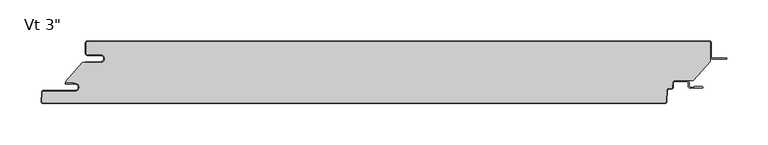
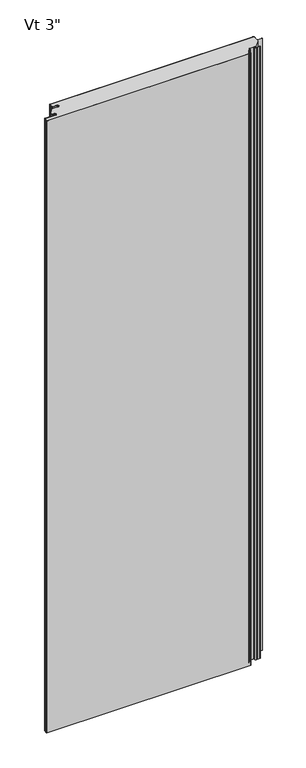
"""IFC4 building model written with IfcOpenShell, lengths in millimetres: plate geometry."""

from ifc_helpers import new_model, si_unit, point, frame, frame_2d, origin, origin_with_axes, place, context, project, spatial, polyline, circle_curve, ellipse_curve, trimmed, segment, composite_curve, outline, extrude, source, transform, mapped, element, save
from ifc_brep_helpers import plane_surface, cylinder_surface, revolved_surface, extruded_surface, advanced_brep


def plate_bbc6cc8b(model_context):
    return source(origin(), model_context, "Body", "SolidModel", [
        extrude(outline(composite_curve([segment(polyline([(-361.94375, -16.4625), (-377.81875, -16.4625)]), True, "CONTINUOUS"), segment(trimmed(circle_curve(frame_2d((-377.81875, -15.08125)), 1.38125), [point((-377.81875, -16.4625))], [point((-379.2, -15.08125))], False, "CARTESIAN"), True, "CONTINUOUS"), segment(polyline([(-379.2, -15.08125), (-379.2, -2.38125)]), True, "CONTINUOUS"), segment(trimmed(circle_curve(frame_2d((-377.81875, -2.38125)), 1.38125), [point((-379.2, -2.38125))], [point((-377.81875, -1.0))], False, "CARTESIAN"), True, "CONTINUOUS"), segment(polyline([(-377.81875, -1.0), (377.83125, -1.0)]), True, "CONTINUOUS"), segment(trimmed(circle_curve(frame_2d((377.83125, -2.38125)), 1.38125), [point((377.83125, -1.0))], [point((379.2125, -2.38125))], False, "CARTESIAN"), True, "CONTINUOUS"), segment(polyline([(379.2125, -2.38125), (379.2125, -24.9057308), (358.3955434, -48.2125), (335.9540783, -48.2125)]), True, "CONTINUOUS"), segment(trimmed(circle_curve(frame_2d((335.9540783, -50.8)), 2.5875), [point((335.9540783, -48.2125))], [point((333.3701244, -50.6645807))], True, "CARTESIAN"), True, "CONTINUOUS"), segment(polyline([(333.3701244, -50.6645807), (333.0680481, -56.428539)]), True, "CONTINUOUS"), segment(trimmed(circle_curve(frame_2d((331.6886911, -56.35625)), 1.38125), [point((333.0680481, -56.428539))], [point((331.6886911, -57.7375))], False, "CARTESIAN"), True, "CONTINUOUS"), segment(polyline([(331.6886911, -57.7375), (328.6448847, -57.7375)]), True, "CONTINUOUS"), segment(trimmed(circle_curve(frame_2d((328.6448847, -60.325)), 2.5875), [point((328.6448847, -57.7375))], [point((326.0609307, -60.1895807))], True, "CARTESIAN"), True, "CONTINUOUS"), segment(polyline([(326.0609307, -60.1895807), (325.3428677, -73.891039)]), True, "CONTINUOUS"), segment(trimmed(circle_curve(frame_2d((323.9635107, -73.81875)), 1.38125), [point((325.3428677, -73.891039))], [point((323.9635107, -75.2))], False, "CARTESIAN"), True, "CONTINUOUS"), segment(polyline([(323.9635107, -75.2), (-431.6799535, -75.2)]), True, "CONTINUOUS"), segment(trimmed(circle_curve(frame_2d((-431.6799535, -73.81875)), 1.38125), [point((-431.6799535, -75.2))], [point((-433.0593106, -73.746461))], False, "CARTESIAN"), True, "CONTINUOUS"), segment(polyline([(-433.0593106, -73.746461), (-432.4769291, -62.633961)]), True, "CONTINUOUS"), segment(trimmed(circle_curve(frame_2d((-431.0975721, -62.70625)), 1.38125), [point((-432.4769291, -62.633961))], [point((-431.0975721, -61.325))], False, "CARTESIAN"), True, "CONTINUOUS"), segment(polyline([(-431.0975721, -61.325), (-392.9142674, -61.325)]), True, "CONTINUOUS"), segment(trimmed(circle_curve(frame_2d((-392.9142674, -56.35625)), 4.96875), [point((-392.9142674, -61.325))], [point((-392.9142674, -51.3875))], True, "CARTESIAN"), True, "CONTINUOUS"), segment(polyline([(-392.9142674, -51.3875), (-394.5017674, -51.59375), (-394.5017674, -50.8), (-404.0125, -50.8), (-404.0125, -49.2157227), (-384.1260922, -26.4), (-361.94375, -26.4)]), True, "CONTINUOUS"), segment(trimmed(circle_curve(frame_2d((-361.94375, -21.43125)), 4.96875), [point((-361.94375, -26.4))], [point((-361.94375, -16.4625))], True, "CARTESIAN"), True, "CONTINUOUS")], self_intersect=False)), origin_with_axes(), (0.0, 0.0, 1.0), 2400.0),
        extrude(outline(composite_curve([segment(polyline([(-380.2, -25.4), (-361.94375, -25.4)]), True, "CONTINUOUS"), segment(trimmed(circle_curve(frame_2d((-361.94375, -21.43125)), 3.96875), [point((-361.94375, -25.4))], [point((-361.94375, -17.4625))], True, "CARTESIAN"), True, "CONTINUOUS"), segment(polyline([(-361.94375, -17.4625), (-377.81875, -17.4625)]), True, "CONTINUOUS"), segment(trimmed(circle_curve(frame_2d((-377.81875, -15.08125)), 2.38125), [point((-377.81875, -17.4625))], [point((-380.2, -15.08125))], False, "CARTESIAN"), True, "CONTINUOUS"), segment(polyline([(-380.2, -15.08125), (-380.2, -2.38125)]), True, "CONTINUOUS"), segment(trimmed(circle_curve(frame_2d((-377.81875, -2.38125)), 2.38125), [point((-380.2, -2.38125))], [point((-377.81875, 0.0))], False, "CARTESIAN"), True, "CONTINUOUS"), segment(polyline([(-377.81875, 0.0), (377.83125, 0.0)]), True, "CONTINUOUS"), segment(trimmed(circle_curve(frame_2d((377.83125, -2.38125)), 2.38125), [point((377.83125, 0.0))], [point((380.2125, -2.38125))], False, "CARTESIAN"), True, "CONTINUOUS"), segment(polyline([(380.2125, -2.38125), (380.2125, -19.446875)]), True, "CONTINUOUS"), segment(trimmed(circle_curve(frame_2d((381.8, -19.446875)), 1.5875), [point((380.2125, -19.446875))], [point((381.8, -21.034375))], True, "CARTESIAN"), True, "CONTINUOUS"), segment(polyline([(381.8, -21.034375), (399.2625, -21.034375), (399.2625, -22.034375), (381.8, -22.034375)]), True, "CONTINUOUS"), segment(trimmed(circle_curve(frame_2d((381.8, -19.446875)), 2.5875), [point((381.8, -22.034375))], [point((379.2125, -19.446875))], False, "CARTESIAN"), True, "CONTINUOUS"), segment(polyline([(379.2125, -19.446875), (379.2125, -2.38125)]), True, "CONTINUOUS"), segment(trimmed(circle_curve(frame_2d((377.83125, -2.38125)), 1.38125), [point((379.2125, -2.38125))], [point((377.83125, -1.0))], True, "CARTESIAN"), True, "CONTINUOUS"), segment(polyline([(377.83125, -1.0), (-377.81875, -1.0)]), True, "CONTINUOUS"), segment(trimmed(circle_curve(frame_2d((-377.81875, -2.38125)), 1.38125), [point((-377.81875, -1.0))], [point((-379.2, -2.38125))], True, "CARTESIAN"), True, "CONTINUOUS"), segment(polyline([(-379.2, -2.38125), (-379.2, -15.08125)]), True, "CONTINUOUS"), segment(trimmed(circle_curve(frame_2d((-377.81875, -15.08125)), 1.38125), [point((-379.2, -15.08125))], [point((-377.81875, -16.4625))], True, "CARTESIAN"), True, "CONTINUOUS"), segment(polyline([(-377.81875, -16.4625), (-361.94375, -16.4625)]), True, "CONTINUOUS"), segment(trimmed(circle_curve(frame_2d((-361.94375, -21.43125)), 4.96875), [point((-361.94375, -16.4625))], [point((-361.94375, -26.4))], False, "CARTESIAN"), True, "CONTINUOUS"), segment(polyline([(-361.94375, -26.4), (-380.2, -26.4), (-380.2, -25.4)]), True, "CONTINUOUS")], self_intersect=False)), origin_with_axes(), (0.0, 0.0, 1.0), 2400.0),
        advanced_brep(
        [(-404.2252049, -50.8, 2400.0), (-404.2252049, -52.3875, 2400.0), (-392.9142674, -52.3875, 2400.0), (-392.9142674, -60.325, 2400.0), (-431.0975721, -60.325, 2400.0), (-433.4755586, -62.581625, 2400.0), (-434.0579401, -73.694125, 2400.0), (-431.6799535, -76.2, 2400.0), (323.9635107, -76.2, 2400.0), (326.3414973, -73.943375, 2400.0), (327.0595603, -60.2419167, 2400.0), (328.6448847, -58.7375, 2400.0), (331.6886911, -58.7375, 2400.0), (334.0666776, -56.480875, 2400.0), (334.3687539, -50.7169167, 2400.0), (335.9540783, -49.2125, 2400.0), (350.8294826, -49.2125, 2400.0), (352.4169826, -50.8, 2400.0), (352.4169826, -54.9671875, 2400.0), (354.7982326, -57.3484375, 2400.0), (369.2898532, -57.3484375, 2400.0), (369.2898532, -55.5546875, 2400.0), (359.5607326, -55.5546875, 2400.0), (359.5607326, -56.3484375, 2400.0), (354.7982326, -56.3484375, 2400.0), (353.4169826, -54.9671875, 2400.0), (353.4169826, -50.8, 2400.0), (350.8294826, -48.2125, 2400.0), (335.9540783, -48.2125, 2400.0), (333.3701244, -50.6645807, 2400.0), (333.0680481, -56.428539, 2400.0), (331.6886911, -57.7375, 2400.0), (328.6448847, -57.7375, 2400.0), (326.0609307, -60.1895807, 2400.0), (325.3428677, -73.891039, 2400.0), (323.9635107, -75.2, 2400.0), (-431.6799535, -75.2, 2400.0), (-433.0593106, -73.746461, 2400.0), (-432.4769291, -62.633961, 2400.0), (-431.0975721, -61.325, 2400.0), (-392.9142674, -61.325, 2400.0), (-392.9142674, -51.3875, 2400.0), (-394.5017674, -51.59375, 2400.0), (-394.5017674, -50.8, 2400.0), (-404.2252049, -50.8, 0.0), (-394.5017674, -50.8, 0.0), (-394.5017674, -51.59375, 0.0), (-392.9142674, -51.3875, 0.0), (-392.9142674, -61.325, 0.0), (-431.0975721, -61.325, 0.0), (-432.4769291, -62.633961, 0.0), (-433.0593106, -73.746461, 0.0), (-431.6799535, -75.2, 0.0), (323.9635107, -75.2, 0.0), (325.3428677, -73.891039, 0.0), (326.0609307, -60.1895807, 0.0), (328.6448847, -57.7375, 0.0), (331.6886911, -57.7375, 0.0), (333.0680481, -56.428539, 0.0), (333.3701244, -50.6645807, 0.0), (335.9540783, -48.2125, 0.0), (350.8294826, -48.2125, 0.0), (353.4169826, -50.8, 0.0), (353.4169826, -54.9671875, 0.0), (354.7982326, -56.3484375, 0.0), (359.5607326, -56.3484375, 0.0), (359.5607326, -55.5546875, 0.0), (369.2898532, -55.5546875, 0.0), (369.2898532, -57.3484375, 0.0), (354.7982326, -57.3484375, 0.0), (352.4169826, -54.9671875, 0.0), (352.4169826, -50.8, 0.0), (350.8294826, -49.2125, 0.0), (335.9540783, -49.2125, 0.0), (334.3687539, -50.7169167, 0.0), (334.0666776, -56.480875, 0.0), (331.6886911, -58.7375, 0.0), (328.6448847, -58.7375, 0.0), (327.0595603, -60.2419167, 0.0), (326.3414973, -73.943375, 0.0), (323.9635107, -76.2, 0.0), (-431.6799535, -76.2, 0.0), (-434.0579401, -73.694125, 0.0), (-433.4755586, -62.581625, 0.0), (-431.0975721, -60.325, 0.0), (-392.9142674, -60.325, 0.0), (-392.9142674, -52.3875, 0.0), (-404.2252049, -52.3875, 0.0)],
        [
            (0, 1, circle_curve(frame((-404.2252049, -51.59375, 2400.0), z_axis=(0.0, 0.0, 1.0), x_axis=(1.0, 0.0, 0.0)), 0.79375)),
            (1, 2),
            (2, 3, circle_curve(frame((-392.9142674, -56.35625, 2400.0), z_axis=(0.0, 0.0, -1.0), x_axis=(1.0, 0.0, 0.0)), 3.96875)),
            (3, 4),
            (4, 5, circle_curve(frame((-431.0975721, -62.70625, 2400.0), z_axis=(0.0, 0.0, 1.0), x_axis=(1.0, 0.0, 0.0)), 2.38125)),
            (5, 6),
            (6, 7, circle_curve(frame((-431.6799535, -73.81875, 2400.0), z_axis=(0.0, 0.0, 1.0), x_axis=(1.0, 0.0, 0.0)), 2.38125)),
            (7, 8),
            (8, 9, circle_curve(frame((323.9635107, -73.81875, 2400.0), z_axis=(0.0, 0.0, 1.0), x_axis=(1.0, 0.0, 0.0)), 2.38125)),
            (9, 10),
            (10, 11, circle_curve(frame((328.6448847, -60.325, 2400.0), z_axis=(0.0, 0.0, -1.0), x_axis=(1.0, 0.0, 0.0)), 1.5875)),
            (11, 12),
            (12, 13, circle_curve(frame((331.6886911, -56.35625, 2400.0), z_axis=(0.0, 0.0, 1.0), x_axis=(1.0, 0.0, 0.0)), 2.38125)),
            (13, 14),
            (14, 15, circle_curve(frame((335.9540783, -50.8, 2400.0), z_axis=(0.0, 0.0, -1.0), x_axis=(1.0, 0.0, 0.0)), 1.5875)),
            (15, 16),
            (16, 17, circle_curve(frame((350.8294826, -50.8, 2400.0), z_axis=(0.0, 0.0, -1.0), x_axis=(1.0, 0.0, 0.0)), 1.5875)),
            (17, 18),
            (18, 19, circle_curve(frame((354.7982326, -54.9671875, 2400.0), z_axis=(0.0, 0.0, 1.0), x_axis=(1.0, 0.0, 0.0)), 2.38125)),
            (19, 20),
            (20, 21, ellipse_curve(frame((369.2898532, -56.4515625, 2400.0), z_axis=(0.0, 0.0, 1.0), x_axis=(0.0, 1.0, 0.0)), 0.896875, 0.7852275)),
            (21, 22),
            (22, 23),
            (23, 24),
            (24, 25, circle_curve(frame((354.7982326, -54.9671875, 2400.0), z_axis=(0.0, 0.0, -1.0), x_axis=(1.0, 0.0, 0.0)), 1.38125)),
            (25, 26),
            (26, 27, circle_curve(frame((350.8294826, -50.8, 2400.0), z_axis=(0.0, 0.0, 1.0), x_axis=(1.0, 0.0, 0.0)), 2.5875)),
            (27, 28),
            (28, 29, circle_curve(frame((335.9540783, -50.8, 2400.0), z_axis=(0.0, 0.0, 1.0), x_axis=(1.0, 0.0, 0.0)), 2.5875)),
            (29, 30),
            (30, 31, circle_curve(frame((331.6886911, -56.35625, 2400.0), z_axis=(0.0, 0.0, -1.0), x_axis=(1.0, 0.0, 0.0)), 1.38125)),
            (31, 32),
            (32, 33, circle_curve(frame((328.6448847, -60.325, 2400.0), z_axis=(0.0, 0.0, 1.0), x_axis=(1.0, 0.0, 0.0)), 2.5875)),
            (33, 34),
            (34, 35, circle_curve(frame((323.9635107, -73.81875, 2400.0), z_axis=(0.0, 0.0, -1.0), x_axis=(1.0, 0.0, 0.0)), 1.38125)),
            (35, 36),
            (36, 37, circle_curve(frame((-431.6799535, -73.81875, 2400.0), z_axis=(0.0, 0.0, -1.0), x_axis=(1.0, 0.0, 0.0)), 1.38125)),
            (37, 38),
            (38, 39, circle_curve(frame((-431.0975721, -62.70625, 2400.0), z_axis=(0.0, 0.0, -1.0), x_axis=(1.0, 0.0, 0.0)), 1.38125)),
            (39, 40),
            (40, 41, circle_curve(frame((-392.9142674, -56.35625, 2400.0), z_axis=(0.0, 0.0, 1.0), x_axis=(1.0, 0.0, 0.0)), 4.96875)),
            (41, 42),
            (42, 43),
            (43, 0),
            (44, 45),
            (45, 46),
            (46, 47),
            (47, 48, circle_curve(frame((-392.9142674, -56.35625, 0.0), z_axis=(0.0, 0.0, -1.0), x_axis=(1.0, 0.0, 0.0)), 4.96875)),
            (48, 49),
            (49, 50, circle_curve(frame((-431.0975721, -62.70625, 0.0), z_axis=(0.0, 0.0, 1.0), x_axis=(1.0, 0.0, 0.0)), 1.38125)),
            (50, 51),
            (51, 52, circle_curve(frame((-431.6799535, -73.81875, 0.0), z_axis=(0.0, 0.0, 1.0), x_axis=(1.0, 0.0, 0.0)), 1.38125)),
            (52, 53),
            (53, 54, circle_curve(frame((323.9635107, -73.81875, 0.0), z_axis=(0.0, 0.0, 1.0), x_axis=(1.0, 0.0, 0.0)), 1.38125)),
            (54, 55),
            (55, 56, circle_curve(frame((328.6448847, -60.325, 0.0), z_axis=(0.0, 0.0, -1.0), x_axis=(1.0, 0.0, 0.0)), 2.5875)),
            (56, 57),
            (57, 58, circle_curve(frame((331.6886911, -56.35625, 0.0), z_axis=(0.0, 0.0, 1.0), x_axis=(1.0, 0.0, 0.0)), 1.38125)),
            (58, 59),
            (59, 60, circle_curve(frame((335.9540783, -50.8, 0.0), z_axis=(0.0, 0.0, -1.0), x_axis=(1.0, 0.0, 0.0)), 2.5875)),
            (60, 61),
            (61, 62, circle_curve(frame((350.8294826, -50.8, 0.0), z_axis=(0.0, 0.0, -1.0), x_axis=(1.0, 0.0, 0.0)), 2.5875)),
            (62, 63),
            (63, 64, circle_curve(frame((354.7982326, -54.9671875, 0.0), z_axis=(0.0, 0.0, 1.0), x_axis=(1.0, 0.0, 0.0)), 1.38125)),
            (64, 65),
            (65, 66),
            (66, 67),
            (67, 68, ellipse_curve(frame((369.2898532, -56.4515625, 0.0), z_axis=(0.0, 0.0, -1.0), x_axis=(0.0, 1.0, 0.0)), 0.896875, 0.7852275)),
            (68, 69),
            (69, 70, circle_curve(frame((354.7982326, -54.9671875, 0.0), z_axis=(0.0, 0.0, -1.0), x_axis=(1.0, 0.0, 0.0)), 2.38125)),
            (70, 71),
            (71, 72, circle_curve(frame((350.8294826, -50.8, 0.0), z_axis=(0.0, 0.0, 1.0), x_axis=(1.0, 0.0, 0.0)), 1.5875)),
            (72, 73),
            (73, 74, circle_curve(frame((335.9540783, -50.8, 0.0), z_axis=(0.0, 0.0, 1.0), x_axis=(1.0, 0.0, 0.0)), 1.5875)),
            (74, 75),
            (75, 76, circle_curve(frame((331.6886911, -56.35625, 0.0), z_axis=(0.0, 0.0, -1.0), x_axis=(1.0, 0.0, 0.0)), 2.38125)),
            (76, 77),
            (77, 78, circle_curve(frame((328.6448847, -60.325, 0.0), z_axis=(0.0, 0.0, 1.0), x_axis=(1.0, 0.0, 0.0)), 1.5875)),
            (78, 79),
            (79, 80, circle_curve(frame((323.9635107, -73.81875, 0.0), z_axis=(0.0, 0.0, -1.0), x_axis=(1.0, 0.0, 0.0)), 2.38125)),
            (80, 81),
            (81, 82, circle_curve(frame((-431.6799535, -73.81875, 0.0), z_axis=(0.0, 0.0, -1.0), x_axis=(1.0, 0.0, 0.0)), 2.38125)),
            (82, 83),
            (83, 84, circle_curve(frame((-431.0975721, -62.70625, 0.0), z_axis=(0.0, 0.0, -1.0), x_axis=(1.0, 0.0, 0.0)), 2.38125)),
            (84, 85),
            (85, 86, circle_curve(frame((-392.9142674, -56.35625, 0.0), z_axis=(0.0, 0.0, 1.0), x_axis=(1.0, 0.0, 0.0)), 3.96875)),
            (86, 87),
            (87, 44, circle_curve(frame((-404.2252049, -51.59375, 0.0), z_axis=(0.0, 0.0, -1.0), x_axis=(1.0, 0.0, 0.0)), 0.79375)),
            (20, 68),
            (67, 21),
            (66, 22),
            (65, 23),
            (41, 47),
            (46, 42),
            (45, 43),
            (40, 48),
            (39, 49),
            (38, 50),
            (37, 51),
            (33, 55),
            (54, 34),
            (32, 56),
            (31, 57),
            (30, 58),
            (29, 59),
            (28, 60),
            (64, 24),
            (63, 25),
            (62, 26),
            (61, 27),
            (18, 70),
            (69, 19),
            (17, 71),
            (16, 72),
            (15, 73),
            (14, 74),
            (13, 75),
            (12, 76),
            (11, 77),
            (10, 78),
            (9, 79),
            (5, 83),
            (82, 6),
            (4, 84),
            (3, 85),
            (2, 86),
            (1, 87),
            (0, 44),
            (36, 52),
            (35, 53),
            (8, 80),
            (7, 81),
        ],
        [
            plane_surface(frame((0.00625, -76.2, 2400.0), z_axis=(0.0, 0.0, 1.0), x_axis=(0.0, -1.0, 0.0))),
            plane_surface(frame((0.00625, -76.2, 0.0), z_axis=(0.0, 0.0, -1.0), x_axis=(0.0, -1.0, 0.0))),
            extruded_surface(trimmed(ellipse_curve(frame((369.2898532, -56.4515625, 2400.0), z_axis=(0.0, 0.0, -1.0), x_axis=(0.0, 1.0, 0.0)), 0.896875, 0.7852275), [point((369.2898532, -55.5546875, 2400.0))], [point((369.2898532, -57.3484375, 2400.0))], True, "CARTESIAN"), (0.0, 0.0, -2400.0), 2400.0),
            plane_surface(frame((359.5607326, -55.5546875, 2400.0), z_axis=(0.0, 1.0, 0.0), x_axis=(0.0, 0.0, -1.0))),
            plane_surface(frame((359.5607326, -56.3484375, 2400.0), z_axis=(-1.0, 0.0, 0.0), x_axis=(0.0, 0.0, -1.0))),
            plane_surface(frame((-394.5017674, -51.59375, 2400.0), z_axis=(-0.12883844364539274, 0.9916655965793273, 0.0), x_axis=(0.0, 0.0, -1.0))),
            plane_surface(frame((-394.5017674, -50.8, 2400.0), z_axis=(1.0, 0.0, 0.0), x_axis=(0.0, 0.0, -1.0))),
            cylinder_surface(frame((-392.9142674, -56.35625, 2400.0), z_axis=(0.0, 0.0, 1.0), x_axis=(1.0, 0.0, 0.0)), 4.96875),
            plane_surface(frame((-392.9142674, -61.325, 2400.0), z_axis=(0.0, -1.0, 0.0), x_axis=(0.0, 0.0, -1.0))),
            revolved_surface(polyline([(-429.71632209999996, -62.70625, 0.0), (-429.71632209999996, -62.70625, 2400.0)]), (-431.0975721, -62.70625, 2400.0), (0.0, 0.0, -1.0)),
            plane_surface(frame((-432.4769291, -62.633961, 2400.0), z_axis=(0.9986295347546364, -0.05233595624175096, 0.0), x_axis=(0.0, 0.0, -1.0))),
            plane_surface(frame((325.3428677, -73.891039, 2400.0), z_axis=(-0.9986295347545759, 0.05233595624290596, 0.0), x_axis=(0.0, 0.0, -1.0))),
            cylinder_surface(frame((328.6448847, -60.325, 2400.0), z_axis=(0.0, 0.0, 1.0), x_axis=(1.0, 0.0, 0.0)), 2.5875),
            plane_surface(frame((328.6448847, -57.7375, 2400.0), z_axis=(0.0, 1.0, 0.0), x_axis=(0.0, 0.0, -1.0))),
            revolved_surface(polyline([(333.06994110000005, -56.35625, 0.0), (333.06994110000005, -56.35625, 2400.0)]), (331.6886911, -56.35625, 2400.0), (0.0, 0.0, -1.0)),
            plane_surface(frame((333.0680481, -56.428539, 2400.0), z_axis=(-0.998629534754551, 0.05233595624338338, 0.0), x_axis=(0.0, 0.0, -1.0))),
            cylinder_surface(frame((335.9540783, -50.8, 2400.0), z_axis=(0.0, 0.0, 1.0), x_axis=(1.0, 0.0, 0.0)), 2.5875),
            plane_surface(frame((354.7982326, -56.3484375, 2400.0), z_axis=(0.0, 1.0, 0.0), x_axis=(0.0, 0.0, -1.0))),
            revolved_surface(polyline([(356.17948260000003, -54.9671875, 0.0), (356.17948260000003, -54.9671875, 2400.0)]), (354.7982326, -54.9671875, 2400.0), (0.0, 0.0, -1.0)),
            plane_surface(frame((353.4169826, -50.8, 2400.0), z_axis=(1.0, 0.0, 0.0), x_axis=(0.0, 0.0, -1.0))),
            cylinder_surface(frame((350.8294826, -50.8, 2400.0), z_axis=(0.0, 0.0, 1.0), x_axis=(1.0, 0.0, 0.0)), 2.5875),
            plane_surface(frame((335.9540783, -48.2125, 2400.0), z_axis=(0.0, 1.0, 0.0), x_axis=(0.0, 0.0, -1.0))),
            cylinder_surface(frame((354.7982326, -54.9671875, 2400.0), z_axis=(0.0, 0.0, 1.0), x_axis=(1.0, 0.0, 0.0)), 2.38125),
            plane_surface(frame((352.4169826, -54.9671875, 2400.0), z_axis=(-1.0, 0.0, 0.0), x_axis=(0.0, 0.0, -1.0))),
            revolved_surface(polyline([(352.4169826, -50.8, 0.0), (352.4169826, -50.8, 2400.0)]), (350.8294826, -50.8, 2400.0), (0.0, 0.0, -1.0)),
            plane_surface(frame((350.8294826, -49.2125, 2400.0), z_axis=(0.0, -1.0, 0.0), x_axis=(0.0, 0.0, -1.0))),
            revolved_surface(polyline([(337.54157829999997, -50.8, 0.0), (337.54157829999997, -50.8, 2400.0)]), (335.9540783, -50.8, 2400.0), (0.0, 0.0, -1.0)),
            plane_surface(frame((334.3687539, -50.7169167, 2400.0), z_axis=(0.9986295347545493, -0.05233595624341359, 0.0), x_axis=(0.0, 0.0, -1.0))),
            cylinder_surface(frame((331.6886911, -56.35625, 2400.0), z_axis=(0.0, 0.0, 1.0), x_axis=(1.0, 0.0, 0.0)), 2.38125),
            plane_surface(frame((331.6886911, -58.7375, 2400.0), z_axis=(0.0, -1.0, 0.0), x_axis=(0.0, 0.0, -1.0))),
            revolved_surface(polyline([(330.23238469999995, -60.325, 0.0), (330.23238469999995, -60.325, 2400.0)]), (328.6448847, -60.325, 2400.0), (0.0, 0.0, -1.0)),
            plane_surface(frame((327.0595603, -60.2419167, 2400.0), z_axis=(0.9986295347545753, -0.052335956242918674, 0.0), x_axis=(0.0, 0.0, -1.0))),
            plane_surface(frame((-434.0579401, -73.694125, 2400.0), z_axis=(-0.9986295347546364, 0.05233595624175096, 0.0), x_axis=(0.0, 0.0, -1.0))),
            cylinder_surface(frame((-431.0975721, -62.70625, 2400.0), z_axis=(0.0, 0.0, 1.0), x_axis=(1.0, 0.0, 0.0)), 2.38125),
            plane_surface(frame((-431.0975721, -60.325, 2400.0), z_axis=(0.0, 1.0, 0.0), x_axis=(0.0, 0.0, -1.0))),
            revolved_surface(polyline([(-388.9455174, -56.35625, 0.0), (-388.9455174, -56.35625, 2400.0)]), (-392.9142674, -56.35625, 2400.0), (0.0, 0.0, -1.0)),
            plane_surface(frame((-392.9142674, -52.3875, 2400.0), z_axis=(0.0, -1.0, 0.0), x_axis=(0.0, 0.0, -1.0))),
            cylinder_surface(frame((-404.2252049, -51.59375, 2400.0), z_axis=(0.0, 0.0, 1.0), x_axis=(1.0, 0.0, 0.0)), 0.79375),
            plane_surface(frame((-404.2252049, -50.8, 2400.0), z_axis=(0.0, 1.0, 0.0), x_axis=(0.0, 0.0, -1.0))),
            revolved_surface(polyline([(-430.2987035, -73.81875, 0.0), (-430.2987035, -73.81875, 2400.0)]), (-431.6799535, -73.81875, 2400.0), (0.0, 0.0, -1.0)),
            plane_surface(frame((-431.6799535, -75.2, 2400.0), z_axis=(0.0, 1.0, 0.0), x_axis=(0.0, 0.0, -1.0))),
            revolved_surface(polyline([(325.3447607, -73.81875, 0.0), (325.3447607, -73.81875, 2400.0)]), (323.9635107, -73.81875, 2400.0), (0.0, 0.0, -1.0)),
            plane_surface(frame((369.2898532, -57.3484375, 2400.0), z_axis=(0.0, -1.0, 0.0), x_axis=(0.0, 0.0, -1.0))),
            cylinder_surface(frame((323.9635107, -73.81875, 2400.0), z_axis=(0.0, 0.0, 1.0), x_axis=(1.0, 0.0, 0.0)), 2.38125),
            plane_surface(frame((323.9635107, -76.2, 2400.0), z_axis=(0.0, -1.0, 0.0), x_axis=(0.0, 0.0, -1.0))),
            cylinder_surface(frame((-431.6799535, -73.81875, 2400.0), z_axis=(0.0, 0.0, 1.0), x_axis=(1.0, 0.0, 0.0)), 2.38125),
        ],
        [
            (0, [[1, 2, 3, 4, 5, 6, 7, 8, 9, 10, 11, 12, 13, 14, 15, 16, 17, 18, 19, 20, 21, 22, 23, 24, 25, 26, 27, 28, 29, 30, 31, 32, 33, 34, 35, 36, 37, 38, 39, 40, 41, 42, 43, 44]]),
            (1, [[45, 46, 47, 48, 49, 50, 51, 52, 53, 54, 55, 56, 57, 58, 59, 60, 61, 62, 63, 64, 65, 66, 67, 68, 69, 70, 71, 72, 73, 74, 75, 76, 77, 78, 79, 80, 81, 82, 83, 84, 85, 86, 87, 88]]),
            (2, [[89, -68, 90, -21]]),
            (3, [[-90, -67, 91, -22]]),
            (4, [[-91, -66, 92, -23]]),
            (5, [[93, -47, 94, -42]]),
            (6, [[-94, -46, 95, -43]]),
            (7, [[96, -48, -93, -41]]),
            (8, [[97, -49, -96, -40]]),
            (9, [[98, -50, -97, -39]]),
            (10, [[99, -51, -98, -38]]),
            (11, [[100, -55, 101, -34]]),
            (12, [[102, -56, -100, -33]]),
            (13, [[103, -57, -102, -32]]),
            (14, [[104, -58, -103, -31]]),
            (15, [[105, -59, -104, -30]]),
            (16, [[106, -60, -105, -29]]),
            (17, [[-92, -65, 107, -24]]),
            (18, [[-107, -64, 108, -25]]),
            (19, [[-108, -63, 109, -26]]),
            (20, [[-109, -62, 110, -27]]),
            (21, [[-110, -61, -106, -28]]),
            (22, [[111, -70, 112, -19]]),
            (23, [[113, -71, -111, -18]]),
            (24, [[114, -72, -113, -17]]),
            (25, [[115, -73, -114, -16]]),
            (26, [[116, -74, -115, -15]]),
            (27, [[117, -75, -116, -14]]),
            (28, [[118, -76, -117, -13]]),
            (29, [[119, -77, -118, -12]]),
            (30, [[120, -78, -119, -11]]),
            (31, [[121, -79, -120, -10]]),
            (32, [[122, -83, 123, -6]]),
            (33, [[124, -84, -122, -5]]),
            (34, [[125, -85, -124, -4]]),
            (35, [[126, -86, -125, -3]]),
            (36, [[127, -87, -126, -2]]),
            (37, [[128, -88, -127, -1]]),
            (38, [[-95, -45, -128, -44]]),
            (39, [[129, -52, -99, -37]]),
            (40, [[130, -53, -129, -36]]),
            (41, [[-101, -54, -130, -35]]),
            (42, [[-112, -69, -89, -20]]),
            (43, [[131, -80, -121, -9]]),
            (44, [[132, -81, -131, -8]]),
            (45, [[-123, -82, -132, -7]]),
        ],
    ),
    ])


if __name__ == "__main__":
    model = new_model("IFC4")
    model_context = context("Model", 3, world=origin())
    ifc_project = project(units=[si_unit("LENGTHUNIT", "METRE", prefix="MILLI")], contexts=[model_context])
    site = spatial("IfcSite", under=ifc_project)
    building = spatial("IfcBuilding", under=site)
    placement = place(None, origin())
    plate_shape = plate_bbc6cc8b(model_context)
    element("IfcPlate", 1, ObjectType="KIP-30-DWTR-R19-CP-Vt-F : Vt 3\"", at=placement, inside=building, context=model_context, shape_type="MappedRepresentation", body=[
        mapped(plate_shape, transform((0.0, 0.0, 0.0), x_axis=(1.0, 0.0, 0.0), y_axis=(0.0, 1.0, 0.0), z_axis=(0.0, 0.0, 1.0))),
    ])
    save(model, "model.ifc")
